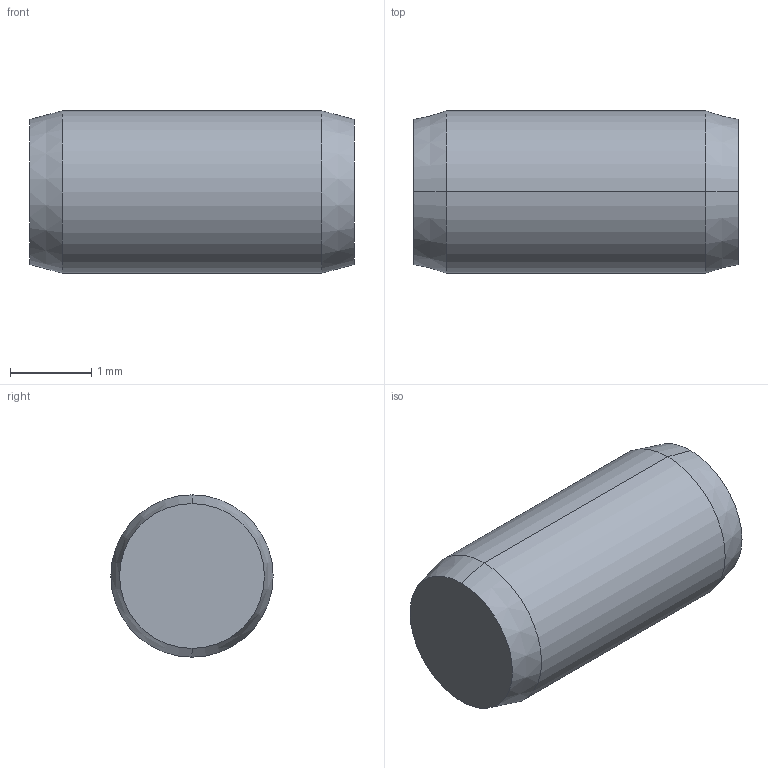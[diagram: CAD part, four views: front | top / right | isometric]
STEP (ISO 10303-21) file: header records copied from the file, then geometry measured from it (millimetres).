
FILE_DESCRIPTION (( 'STEP AP203' ), '1' );
FILE_NAME ('P1206.020-004 .step', '2017-06-14T07:55:24', ( 'User' ), ( '' ), 'SwSTEP 2.0', 'SolidWorks 2009', '' );
FILE_SCHEMA (( 'CONFIG_CONTROL_DESIGN' ));
Length unit declared in the file: millimetre
Products named in the file (1): P1206.020-004 
Bounding box: 4 x 2 x 2 mm (x, y, z)
Volume: 12.3 mm3; surface area: 30 mm2
Topology: 1 solids, 1 shells, 8 faces, 14 edges, 8 vertices
Faces by surface type: cone 4, cylinder 2, plane 2
Entity records: 271 total; most frequent: DIRECTION 40, CARTESIAN_POINT 31, ORIENTED_EDGE 28, AXIS2_PLACEMENT_3D 17, EDGE_CURVE 14, VERTEX_POINT 8, EDGE_LOOP 8, ADVANCED_FACE 8
